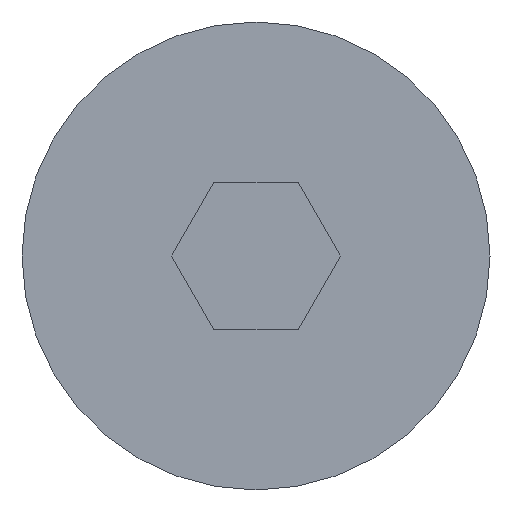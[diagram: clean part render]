
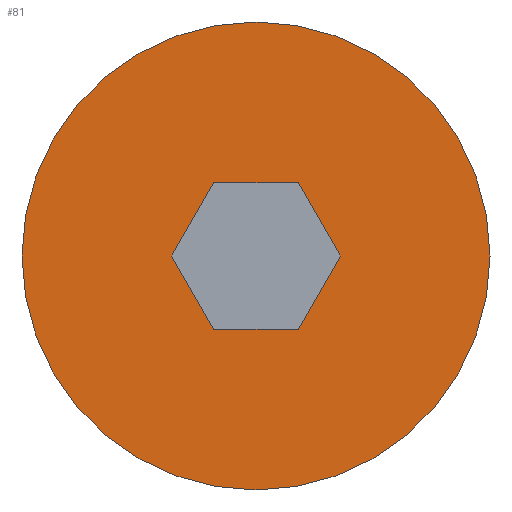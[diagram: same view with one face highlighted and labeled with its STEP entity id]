
A CAD part, left-side view. The second image highlights one B-rep face of the part: STEP entity #81.
In plain terms, the highlighted free-form (B-spline) face has degree [1, 1] with [3, 4] control points.
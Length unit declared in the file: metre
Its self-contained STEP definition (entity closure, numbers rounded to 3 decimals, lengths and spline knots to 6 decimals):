
#81 = ADVANCED_FACE( '', ( #101, #102 ), #103, .T. );
#101 = FACE_BOUND( '', #158, .T. );
#102 = FACE_OUTER_BOUND( '', #159, .T. );
#103 = B_SPLINE_SURFACE_WITH_KNOTS( '', 1, 1, ( ( #160, #161, #162, #163 ), ( #164, #165, #166, #167 ), ( #168, #169, #170, #171 ) ), .UNSPECIFIED., .F., .F., .F., ( 2, 1, 2 ), ( 2, 1, 1, 2 ), ( -0.409091, 0., 1. ), ( -0.287296, 0., 1., 1.287296 ), .UNSPECIFIED. );
#158 = EDGE_LOOP( '', ( #297, #298, #299, #300, #301, #302 ) );
#159 = EDGE_LOOP( '', ( #303 ) );
#160 = CARTESIAN_POINT( '', ( 12.572949, -0.097686, 9.548466 ) );
#161 = CARTESIAN_POINT( '', ( 12.572949, -0.097686, 9.545938 ) );
#162 = CARTESIAN_POINT( '', ( 12.572949, -0.097686, 9.537138 ) );
#163 = CARTESIAN_POINT( '', ( 12.572949, -0.097686, 9.53461 ) );
#164 = CARTESIAN_POINT( '', ( 12.572949, -0.094086, 9.548466 ) );
#165 = CARTESIAN_POINT( '', ( 12.572949, -0.094086, 9.545938 ) );
#166 = CARTESIAN_POINT( '', ( 12.572949, -0.094086, 9.537138 ) );
#167 = CARTESIAN_POINT( '', ( 12.572949, -0.094086, 9.53461 ) );
#168 = CARTESIAN_POINT( '', ( 12.572949, -0.085286, 9.548466 ) );
#169 = CARTESIAN_POINT( '', ( 12.572949, -0.085286, 9.545938 ) );
#170 = CARTESIAN_POINT( '', ( 12.572949, -0.085286, 9.537138 ) );
#171 = CARTESIAN_POINT( '', ( 12.572949, -0.085286, 9.53461 ) );
#297 = ORIENTED_EDGE( '', *, *, #333, .F. );
#298 = ORIENTED_EDGE( '', *, *, #336, .T. );
#299 = ORIENTED_EDGE( '', *, *, #337, .F. );
#300 = ORIENTED_EDGE( '', *, *, #330, .F. );
#301 = ORIENTED_EDGE( '', *, *, #328, .F. );
#302 = ORIENTED_EDGE( '', *, *, #335, .T. );
#303 = ORIENTED_EDGE( '', *, *, #338, .T. );
#328 = EDGE_CURVE( '', #357, #359, #360, .T. );
#330 = EDGE_CURVE( '', #359, #362, #363, .T. );
#333 = EDGE_CURVE( '', #365, #367, #368, .T. );
#335 = EDGE_CURVE( '', #357, #367, #370, .T. );
#336 = EDGE_CURVE( '', #365, #371, #372, .T. );
#337 = EDGE_CURVE( '', #362, #371, #373, .T. );
#338 = EDGE_CURVE( '', #374, #374, #375, .F. );
#357 = VERTEX_POINT( '', #405 );
#359 = VERTEX_POINT( '', #408 );
#360 = LINE( '', #409, #410 );
#362 = VERTEX_POINT( '', #413 );
#363 = LINE( '', #414, #415 );
#365 = VERTEX_POINT( '', #418 );
#367 = VERTEX_POINT( '', #421 );
#368 = LINE( '', #422, #423 );
#370 = B_SPLINE_CURVE_WITH_KNOTS( '', 3, ( #426, #427, #428, #429 ), .UNSPECIFIED., .F., .F., ( 4, 4 ), ( 0., 1. ), .UNSPECIFIED. );
#371 = VERTEX_POINT( '', #430 );
#372 = LINE( '', #431, #432 );
#373 = LINE( '', #433, #434 );
#374 = VERTEX_POINT( '', #435 );
#375 = CIRCLE( '', #436, 0.004 );
#405 = CARTESIAN_POINT( '', ( 12.572949, -0.088965, 9.540288 ) );
#408 = CARTESIAN_POINT( '', ( 12.572949, -0.090408, 9.540288 ) );
#409 = CARTESIAN_POINT( '', ( 12.572949, -0.089686, 9.540288 ) );
#410 = VECTOR( '', #454, 1. );
#413 = CARTESIAN_POINT( '', ( 12.572949, -0.09113, 9.541538 ) );
#414 = CARTESIAN_POINT( '', ( 12.572949, -0.090769, 9.540913 ) );
#415 = VECTOR( '', #456, 1. );
#418 = CARTESIAN_POINT( '', ( 12.572949, -0.088965, 9.542788 ) );
#421 = CARTESIAN_POINT( '', ( 12.572949, -0.088243, 9.541538 ) );
#422 = CARTESIAN_POINT( '', ( 12.572949, -0.088604, 9.542163 ) );
#423 = VECTOR( '', #459, 1. );
#426 = CARTESIAN_POINT( '', ( 12.572949, -0.088965, 9.540288 ) );
#427 = CARTESIAN_POINT( '', ( 12.572949, -0.088724, 9.540705 ) );
#428 = CARTESIAN_POINT( '', ( 12.572949, -0.088484, 9.541121 ) );
#429 = CARTESIAN_POINT( '', ( 12.572949, -0.088243, 9.541538 ) );
#430 = CARTESIAN_POINT( '', ( 12.572949, -0.090408, 9.542788 ) );
#431 = CARTESIAN_POINT( '', ( 12.572949, -0.091486, 9.542788 ) );
#432 = VECTOR( '', #461, 1. );
#433 = CARTESIAN_POINT( '', ( 12.572949, -0.090769, 9.542163 ) );
#434 = VECTOR( '', #462, 1. );
#435 = CARTESIAN_POINT( '', ( 12.572949, -0.085686, 9.541538 ) );
#436 = AXIS2_PLACEMENT_3D( '', #463, #464, #465 );
#454 = DIRECTION( '', ( 0., -1., 0. ) );
#456 = DIRECTION( '', ( 0., -0.5, 0.866 ) );
#459 = DIRECTION( '', ( 0., 0.5, -0.866 ) );
#461 = DIRECTION( '', ( 0., -1., 0. ) );
#462 = DIRECTION( '', ( 0., 0.5, 0.866 ) );
#463 = CARTESIAN_POINT( '', ( 12.572949, -0.089686, 9.541538 ) );
#464 = DIRECTION( '', ( 1., 0., 0. ) );
#465 = DIRECTION( '', ( 0., 0., -1. ) );
